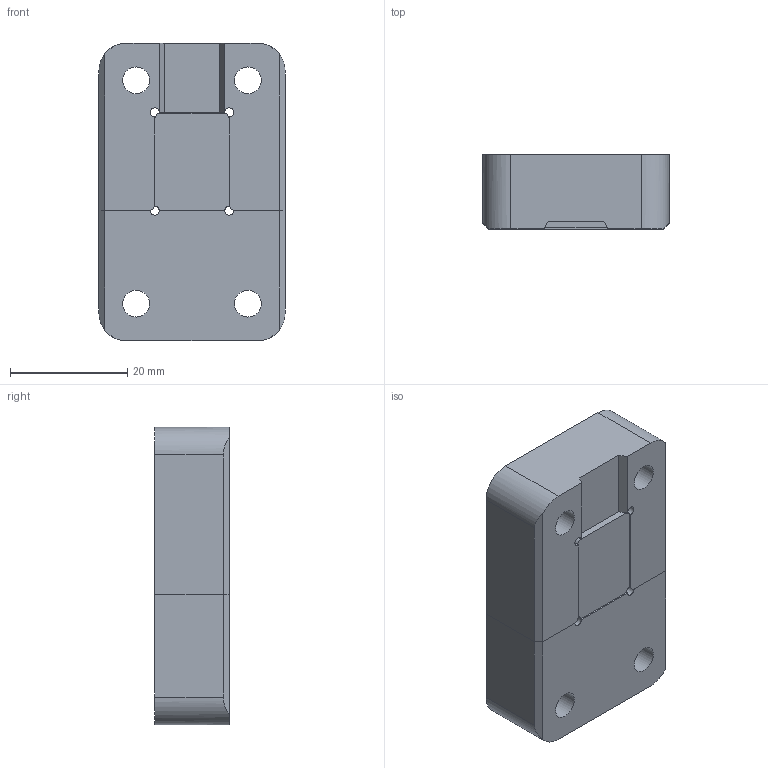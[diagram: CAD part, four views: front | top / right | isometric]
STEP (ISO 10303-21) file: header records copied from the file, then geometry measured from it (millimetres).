
FILE_DESCRIPTION(/* description */ ('STEP AP214'),/* implementation_level */ '2;1');
FILE_NAME(/* name */ 'BGS1250',/* time_stamp */ '2024-12-19T08:04:50+01:00',/* author */ ('License CC BY-ND 4.0'),/* organization */ ('CADENAS'),/* preprocessor_version */ 'ST-DEVELOPER v19.3',/* originating_system */ 'PARTsolutions',/* authorisation */ ' ');
FILE_SCHEMA (('AUTOMOTIVE_DESIGN {1 0 10303 214 3 1 1}'));
Length unit declared in the file: millimetre
Products named in the file (3): BGS1250; BGS1250M; BGS1250F
Assembly tree (2 placements, depth 2):
  BGS1250
    BGS1250M
    BGS1250F
Bounding box: 31.75 x 12.7 x 50.8 mm (x, y, z)
Volume: 18495.9 mm3; surface area: 7603.2 mm2
Topology: 2 solids, 2 shells, 54 faces, 138 edges, 92 vertices
Faces by surface type: plane 34, cylinder 20
Full cylindrical faces by diameter (mm): 4.572 x4, 7.95 x4
Entity records: 1700 total; most frequent: DIRECTION 290, CARTESIAN_POINT 279, ORIENTED_EDGE 260, EDGE_CURVE 130, AXIS2_PLACEMENT_3D 103, VERTEX_POINT 92, LINE 84, VECTOR 84
